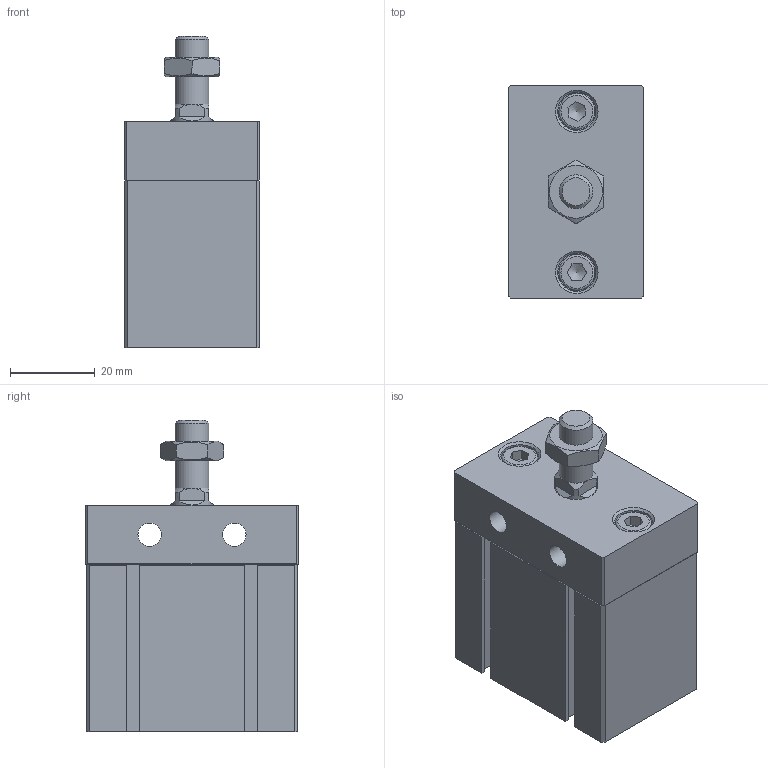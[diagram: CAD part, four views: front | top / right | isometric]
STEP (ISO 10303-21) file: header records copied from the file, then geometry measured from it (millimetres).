
FILE_DESCRIPTION((''),'2;1');
FILE_NAME('I:\3D電子目錄\氣缸\ND\ND\ND25-B\ND25x10-B.stp','2007-07-24T19:18:57',('Administrator'),(''),'Autodesk Inventor 11','Autodesk Inventor 11','');
FILE_SCHEMA(('AUTOMOTIVE_DESIGN { 1 0 10303 214 1 1 1 1 }'));
Length unit declared in the file: millimetre
Products named in the file (4): ND25-B; ISO 4762 M5 x 12; R 形環 28
Assembly tree (4 placements, depth 2):
  ND25-B
    ND25-B
    ISO 4762 M5 x 12  x2
    R 形環 28
Bounding box: 32 x 50.1 x 73.5 mm (x, y, z)
Volume: 79201.6 mm3; surface area: 19435 mm2
Topology: 5 solids, 5 shells, 177 faces, 411 edges, 261 vertices
Faces by surface type: plane 113, cylinder 27, cone 20, bspline 14, torus 3
Full cylindrical faces by diameter (mm): 1.5 x2, 1.9 x2, 5 x2, 5.5 x2, 8 x2, 8.5 x2, 9 x2, 17 x1, 28 x1, 29.4 x1
Entity records: 4577 total; most frequent: CARTESIAN_POINT 975, DIRECTION 714, ORIENTED_EDGE 668, EDGE_CURVE 334, AXIS2_PLACEMENT_3D 249, VERTEX_POINT 236, EDGE_LOOP 228, VECTOR 216
